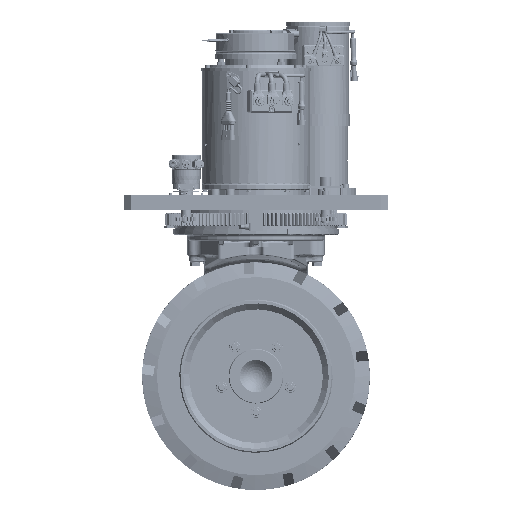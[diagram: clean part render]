
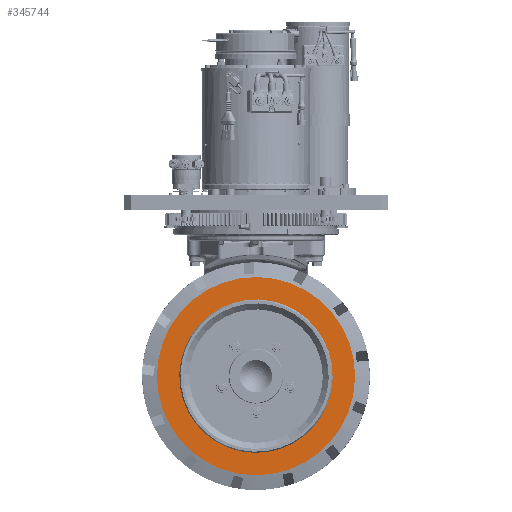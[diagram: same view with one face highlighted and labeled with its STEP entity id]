
A CAD part, front view. The second image highlights one B-rep face of the part: STEP entity #345744.
In plain terms, the highlighted planar face has unit normal (0, -1, 0).
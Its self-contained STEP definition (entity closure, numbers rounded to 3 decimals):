
#16667=FACE_BOUND('',#93855,.T.);
#74417=FACE_OUTER_BOUND('',#93854,.T.);
#93854=EDGE_LOOP('',(#215296));
#93855=EDGE_LOOP('',(#215297));
#115495=CIRCLE('',#365421,198.9);
#115496=CIRCLE('',#365422,154.);
#130946=VERTEX_POINT('',#504501);
#130947=VERTEX_POINT('',#504503);
#164043=EDGE_CURVE('',#130946,#130946,#115495,.T.);
#164044=EDGE_CURVE('',#130947,#130947,#115496,.T.);
#215296=ORIENTED_EDGE('',*,*,#164043,.F.);
#215297=ORIENTED_EDGE('',*,*,#164044,.F.);
#315480=PLANE('',#365420);
#345744=ADVANCED_FACE('',(#74417,#16667),#315480,.T.);
#365420=AXIS2_PLACEMENT_3D('',#504500,#399699,#399700);
#365421=AXIS2_PLACEMENT_3D('',#504502,#399701,#399702);
#365422=AXIS2_PLACEMENT_3D('',#504504,#399703,#399704);
#399699=DIRECTION('center_axis',(0.,-1.,0.));
#399700=DIRECTION('ref_axis',(-0.86,0.,0.51));
#399701=DIRECTION('center_axis',(0.,1.,0.));
#399702=DIRECTION('ref_axis',(0.86,0.,-0.51));
#399703=DIRECTION('center_axis',(0.,-1.,0.));
#399704=DIRECTION('ref_axis',(-0.951,0.,
-0.309));
#504500=CARTESIAN_POINT('Origin',(155.251,-223.5,-91.975));
#504501=CARTESIAN_POINT('',(-171.124,-223.5,101.379));
#504502=CARTESIAN_POINT('Origin',(0.,-223.5,
0.));
#504503=CARTESIAN_POINT('',(146.463,-223.5,47.589));
#504504=CARTESIAN_POINT('Origin',(0.,-223.5,
0.));
